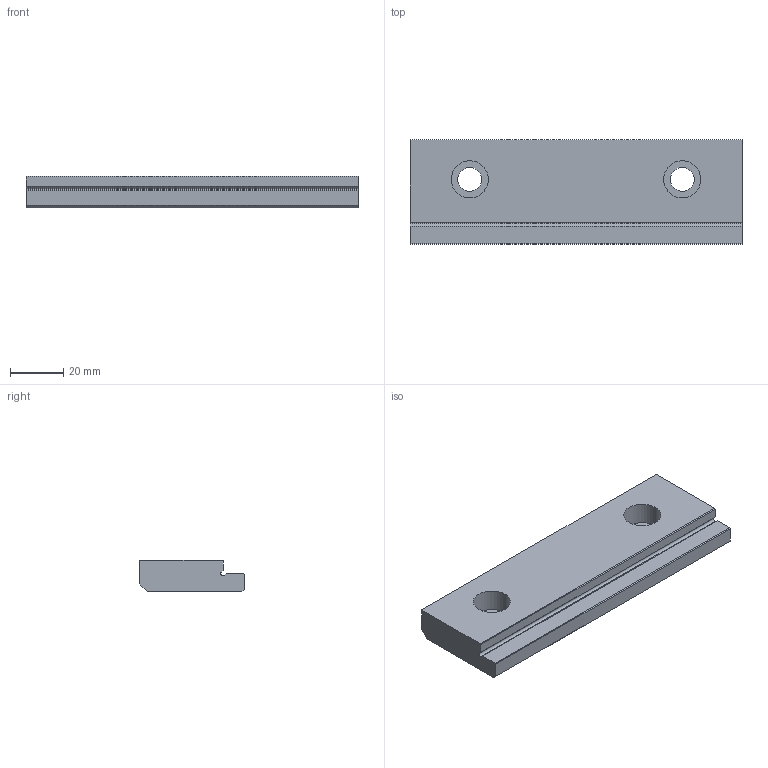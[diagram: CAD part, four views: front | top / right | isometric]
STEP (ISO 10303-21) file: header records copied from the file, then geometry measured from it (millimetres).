
FILE_DESCRIPTION(('STEP AP214'),'1');
FILE_NAME('cctmp_89F576E1-785C-40E2-9713-8185B39FFA58_2021_03_02_09_11_56_0281..stp','2021-03-02T08:11:56',('Meusburger Georg GmbH & Co KG'),('CADClick - www.CADClick.com'),'Spatial InterOp 3D',' ','unknown authorization');
FILE_SCHEMA(('AUTOMOTIVE_DESIGN { 1 0 10303 214 1 1 1 1 }'));
Length unit declared in the file: millimetre
Products named in the file (2): HWS 5606_125; HWS 5606_125_1
Assembly tree (1 placements, depth 2):
  HWS 5606_125
    HWS 5606_125_1
Bounding box: 125 x 39.5 x 12 mm (x, y, z)
Volume: 50305.8 mm3; surface area: 14364.5 mm2
Topology: 1 solids, 1 shells, 26 faces, 66 edges, 44 vertices
Faces by surface type: plane 16, cylinder 10
Entity records: 1058 total; most frequent: DIRECTION 142, CARTESIAN_POINT 138, ORIENTED_EDGE 132, EDGE_CURVE 66, AXIS2_PLACEMENT_3D 48, LINE 46, VECTOR 46, VERTEX_POINT 44
